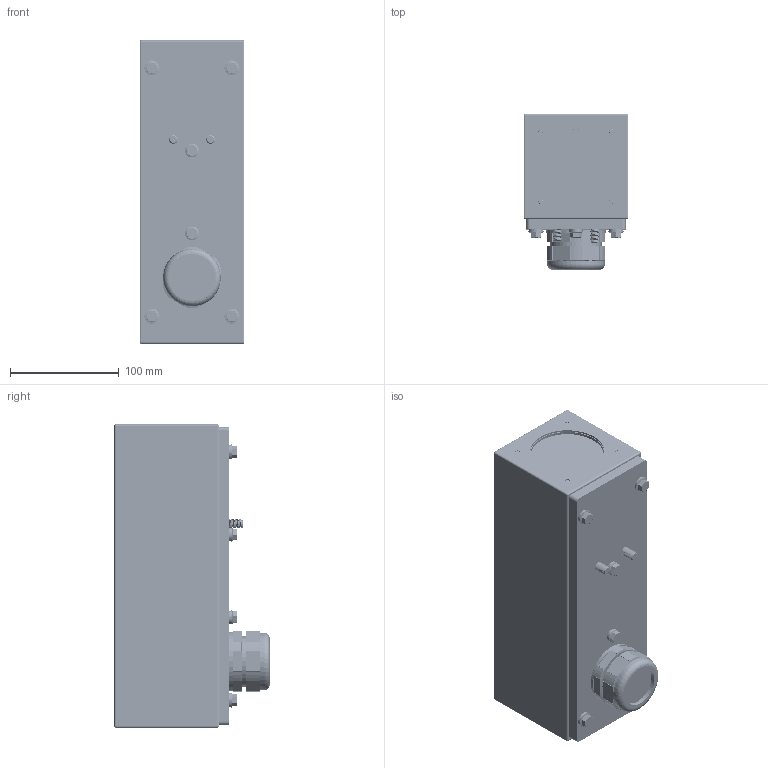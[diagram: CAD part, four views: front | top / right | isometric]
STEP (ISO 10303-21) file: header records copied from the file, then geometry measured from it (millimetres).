
FILE_DESCRIPTION (( 'STEP AP203' ), '1' );
FILE_NAME ('38S-FN.STEP', '2022-06-06T15:14:39', ( '' ), ( '' ), 'SwSTEP 2.0', 'SolidWorks 2021', '' );
FILE_SCHEMA (( 'CONFIG_CONTROL_DESIGN' ));
Length unit declared in the file: inch
Products named in the file (26): SP-M6-1; PG36-I01; 201182; 200306; 93635A318; PG36-S01; 400101; 94709A417; 800001; 91292A113; PG36-N03; 400103; 93635A210; 200307; 400100; 500100; 800007; RSC62200; 38S-FN; 200309; PG36-01-01-01-03; 800006; 9452K15; 93625A200; 201057; PG36-B01
Assembly tree (45 placements, depth 3):
  38S-FN
    200306
      200307
      SP-M6-1  x4
      800001  x4
    201057
    400100
    201182
    500100
    400101
    200309
    93625A200  x4
    800006  x4
      800007
      400103
    91292A113  x2
    RSC62200  x2
    93635A210  x2
    94709A417  x2
    93635A318  x2
    9452K15  x4
    PG36-01-01-01-03
      PG36-B01
      PG36-I01
      PG36-S01
      PG36-N03
Bounding box: 96.52 x 143.04 x 279.4 mm (x, y, z)
Volume: 531054.5 mm3; surface area: 381798.4 mm2
Topology: 52 solids, 52 shells, 2043 faces, 5317 edges, 3425 vertices
Faces by surface type: cylinder 1099, plane 543, cone 288, bspline 48, torus 45, sphere 20
Entity records: 47280 total; most frequent: CARTESIAN_POINT 21759, ORIENTED_EDGE 4920, DIRECTION 4404, EDGE_CURVE 2460, AXIS2_PLACEMENT_3D 1677, VERTEX_POINT 1579, EDGE_LOOP 1073, LINE 1050
